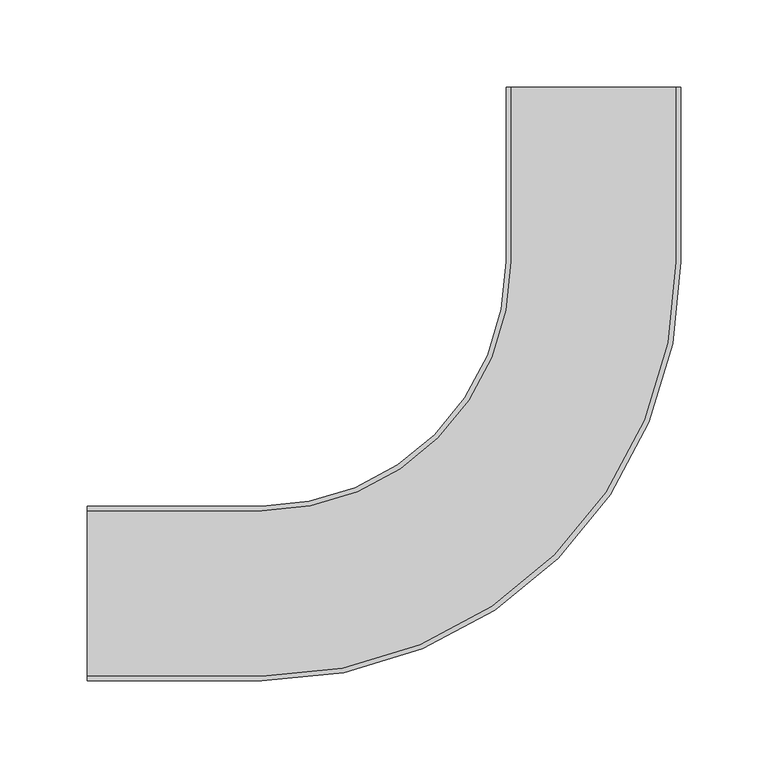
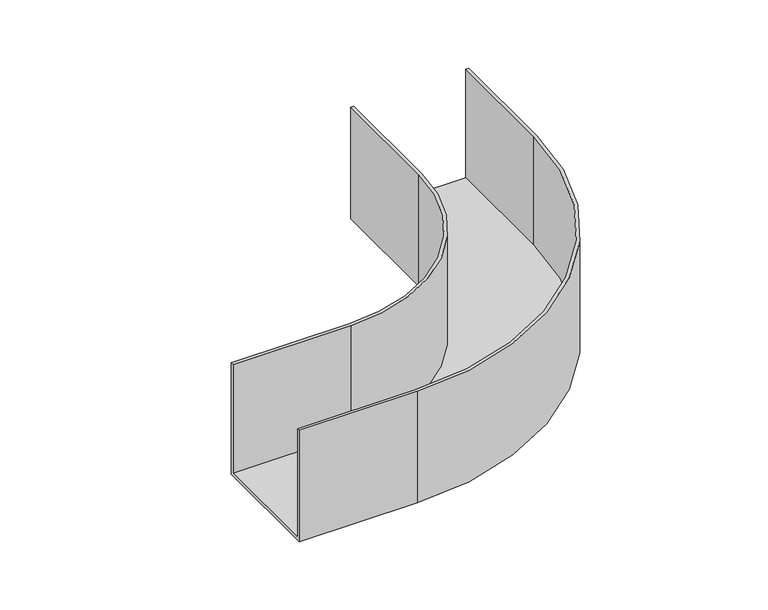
"""IFC4 building model written with IfcOpenShell, lengths in millimetres: cable carrier fitting geometry, BAKS_Elbow_KKZ : KKZC/KKZMC...H100."""

from ifc_helpers import new_model, si_unit, frame, origin, place, context, project, spatial, polyline, circle_curve, source, transform, mapped, element, save
from ifc_brep_helpers import plane_surface, cylinder_surface, revolved_surface, advanced_brep


def cable_carrier_fitting_69659a00(model_context):
    return source(origin(), model_context, "Body", "AdvancedBrep", [
        advanced_brep(
        [(-290.0, -50.0, -50.0), (-290.0, -50.0, 50.0), (-290.0, -47.46, 50.0), (-290.0, -47.46, -47.46), (-290.0, 47.46, -47.46), (-290.0, 47.46, 50.0), (-290.0, 50.0, 50.0), (-290.0, 50.0, -50.0), (50.0, 290.0, -50.0), (-50.0, 290.0, -50.0), (-50.0, 290.0, 50.0), (-47.46, 290.0, 50.0), (-47.46, 290.0, -47.46), (47.46, 290.0, -47.46), (47.46, 290.0, 50.0), (50.0, 290.0, 50.0), (-190.0, -50.0, -50.0), (-190.0, -50.0, 50.0), (50.0, 190.0, 50.0), (47.46, 190.0, 50.0), (-190.0, -47.46, 50.0), (-190.0, -47.46, -47.46), (47.46, 190.0, -47.46), (-47.46, 190.0, -47.46), (-190.0, 47.46, -47.46), (-190.0, 47.46, 50.0), (-47.46, 190.0, 50.0), (-50.0, 190.0, 50.0), (-190.0, 50.0, 50.0), (-190.0, 50.0, -50.0), (-50.0, 190.0, -50.0), (50.0, 190.0, -50.0)],
        [
            (0, 1),
            (1, 2),
            (2, 3),
            (3, 4),
            (4, 5),
            (5, 6),
            (6, 7),
            (7, 0),
            (8, 9),
            (9, 10),
            (10, 11),
            (11, 12),
            (12, 13),
            (13, 14),
            (14, 15),
            (15, 8),
            (0, 16),
            (16, 17),
            (17, 1),
            (17, 18, circle_curve(frame((-190.0, 190.0, 50.0), z_axis=(0.0, 0.0, 1.0), x_axis=(0.0, -1.0, 0.0)), 240.0)),
            (18, 15),
            (14, 19),
            (19, 20, circle_curve(frame((-190.0, 190.0, 50.0), z_axis=(0.0, 0.0, -1.0), x_axis=(0.0, -1.0, 0.0)), 237.46)),
            (20, 2),
            (20, 21),
            (21, 3),
            (21, 22, circle_curve(frame((-190.0, 190.0, -47.46), z_axis=(0.0, 0.0, 1.0), x_axis=(0.0, -1.0, 0.0)), 237.46)),
            (22, 13),
            (12, 23),
            (23, 24, circle_curve(frame((-190.0, 190.0, -47.46), z_axis=(0.0, 0.0, -1.0), x_axis=(0.0, -1.0, 0.0)), 142.54)),
            (24, 4),
            (24, 25),
            (25, 5),
            (25, 26, circle_curve(frame((-190.0, 190.0, 50.0), z_axis=(0.0, 0.0, 1.0), x_axis=(0.0, -1.0, 0.0)), 142.54)),
            (26, 11),
            (10, 27),
            (27, 28, circle_curve(frame((-190.0, 190.0, 50.0), z_axis=(0.0, 0.0, -1.0), x_axis=(0.0, -1.0, 0.0)), 140.0)),
            (28, 6),
            (28, 29),
            (29, 7),
            (29, 30, circle_curve(frame((-190.0, 190.0, -50.0), z_axis=(0.0, 0.0, 1.0), x_axis=(0.0, -1.0, 0.0)), 140.0)),
            (30, 9),
            (8, 31),
            (31, 16, circle_curve(frame((-190.0, 190.0, -50.0), z_axis=(0.0, 0.0, -1.0), x_axis=(0.0, -1.0, 0.0)), 240.0)),
            (31, 18),
            (19, 22),
            (23, 26),
            (27, 30),
        ],
        [
            plane_surface(frame((-290.0, 0.0, 0.0), z_axis=(-1.0, 0.0, 0.0), x_axis=(0.0, 0.0, 1.0))),
            plane_surface(frame((0.0, 290.0, 0.0), z_axis=(0.0, 1.0, 0.0), x_axis=(0.0, 0.0, 1.0))),
            plane_surface(frame((-290.0, -50.0, -50.0), z_axis=(0.0, -1.0, 0.0), x_axis=(1.0, 0.0, 0.0))),
            plane_surface(frame((-290.0, -50.0, 50.0), z_axis=(0.0, 0.0, 1.0), x_axis=(1.0, 0.0, 0.0))),
            plane_surface(frame((-290.0, -47.46, 50.0), z_axis=(0.0, 1.0, 0.0), x_axis=(1.0, 0.0, 0.0))),
            plane_surface(frame((-290.0, -47.46, -47.46), z_axis=(0.0, 0.0, 1.0), x_axis=(1.0, 0.0, 0.0))),
            plane_surface(frame((-290.0, 47.46, -47.46), z_axis=(0.0, -1.0, 0.0), x_axis=(1.0, 0.0, 0.0))),
            plane_surface(frame((-290.0, 47.46, 50.0), z_axis=(0.0, 0.0, 1.0), x_axis=(1.0, 0.0, 0.0))),
            plane_surface(frame((-290.0, 50.0, 50.0), z_axis=(0.0, 1.0, 0.0), x_axis=(1.0, 0.0, 0.0))),
            plane_surface(frame((-290.0, 50.0, -50.0), z_axis=(0.0, 0.0, -1.0), x_axis=(1.0, 0.0, 0.0))),
            cylinder_surface(frame((-190.0, 190.0, 0.0), z_axis=(0.0, 0.0, 1.0), x_axis=(0.0, -1.0, 0.0)), 240.0),
            revolved_surface(polyline([(-190.0, -47.46000000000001, 50.0), (-190.0, -47.46000000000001, -47.46)]), (-190.0, 190.0, 0.0), (0.0, 0.0, 1.0)),
            cylinder_surface(frame((-190.0, 190.0, 0.0), z_axis=(0.0, 0.0, 1.0), x_axis=(0.0, -1.0, 0.0)), 142.54),
            revolved_surface(polyline([(-190.0, 50.0, 50.0), (-190.0, 50.0, -50.0)]), (-190.0, 190.0, 0.0), (0.0, 0.0, 1.0)),
            plane_surface(frame((50.0, 190.0, -50.0), z_axis=(1.0, 0.0, 0.0), x_axis=(0.0, 1.0, 0.0))),
            plane_surface(frame((47.46, 190.0, 50.0), z_axis=(-1.0, 0.0, 0.0), x_axis=(0.0, 1.0, 0.0))),
            plane_surface(frame((-47.46, 190.0, -47.46), z_axis=(1.0, 0.0, 0.0), x_axis=(0.0, 1.0, 0.0))),
            plane_surface(frame((-50.0, 190.0, 50.0), z_axis=(-1.0, 0.0, 0.0), x_axis=(0.0, 1.0, 0.0))),
        ],
        [
            (0, [[1, 2, 3, 4, 5, 6, 7, 8]]),
            (1, [[9, 10, 11, 12, 13, 14, 15, 16]]),
            (2, [[-1, 17, 18, 19]]),
            (3, [[-2, -19, 20, 21, -15, 22, 23, 24]]),
            (4, [[-3, -24, 25, 26]]),
            (5, [[-4, -26, 27, 28, -13, 29, 30, 31]]),
            (6, [[-5, -31, 32, 33]]),
            (7, [[-6, -33, 34, 35, -11, 36, 37, 38]]),
            (8, [[-7, -38, 39, 40]]),
            (9, [[-8, -40, 41, 42, -9, 43, 44, -17]]),
            (10, [[-20, -18, -44, 45]]),
            (11, [[-27, -25, -23, 46]]),
            (12, [[-34, -32, -30, 47]]),
            (13, [[-41, -39, -37, 48]]),
            (14, [[-45, -43, -16, -21]]),
            (15, [[-46, -22, -14, -28]]),
            (16, [[-47, -29, -12, -35]]),
            (17, [[-48, -36, -10, -42]]),
        ],
    ),
    ])


if __name__ == "__main__":
    model = new_model("IFC4")
    model_context = context("Model", 3, world=origin())
    ifc_project = project(units=[si_unit("LENGTHUNIT", "METRE", prefix="MILLI")], contexts=[model_context])
    site = spatial("IfcSite", under=ifc_project)
    building = spatial("IfcBuilding", under=site)
    placement = place(None, origin())
    cable_carrier_fitting_shape = cable_carrier_fitting_69659a00(model_context)
    element("IfcCableCarrierFitting", 1, ObjectType="BAKS_Elbow_KKZ : KKZC/KKZMC...H100", at=placement, inside=building, context=model_context, shape_type="MappedRepresentation", body=[
        mapped(cable_carrier_fitting_shape, transform((0.0, 0.0, 0.0), x_axis=(1.0, 0.0, 0.0), y_axis=(0.0, 1.0, 0.0), z_axis=(0.0, 0.0, 1.0))),
    ])
    save(model, "model.ifc")
